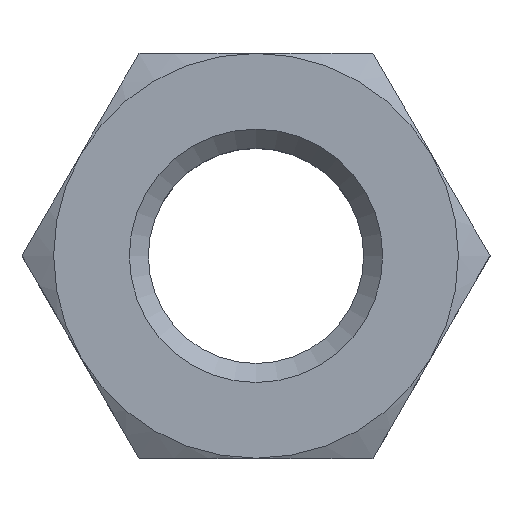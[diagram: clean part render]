
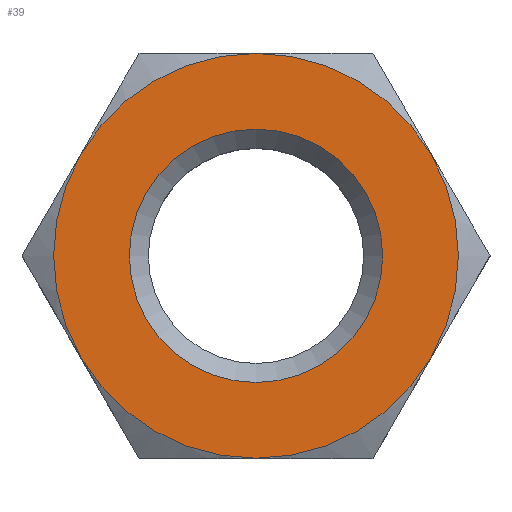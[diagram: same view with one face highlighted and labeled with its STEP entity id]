
A CAD part, top view. The second image highlights one B-rep face of the part: STEP entity #39.
In plain terms, the highlighted planar face has unit normal (0, 0, 1).
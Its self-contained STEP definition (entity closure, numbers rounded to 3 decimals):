
#39 = ADVANCED_FACE( '', ( #84, #85 ), #86, .F. );
#84 = FACE_BOUND( '', #137, .T. );
#85 = FACE_OUTER_BOUND( '', #138, .T. );
#86 = PLANE( '', #139 );
#137 = EDGE_LOOP( '', ( #186 ) );
#138 = EDGE_LOOP( '', ( #187 ) );
#139 = AXIS2_PLACEMENT_3D( '', #188, #189, #190 );
#186 = ORIENTED_EDGE( '', *, *, #281, .T. );
#187 = ORIENTED_EDGE( '', *, *, #283, .F. );
#188 = CARTESIAN_POINT( '', ( -13.856, 8., 8.4 ) );
#189 = DIRECTION( '', ( 0., 0., -1. ) );
#190 = DIRECTION( '', ( -1., 0., 0. ) );
#281 = EDGE_CURVE( '', #319, #319, #320, .T. );
#283 = EDGE_CURVE( '', #322, #322, #323, .T. );
#319 = VERTEX_POINT( '', #374 );
#320 = CIRCLE( '', #375, 5. );
#322 = VERTEX_POINT( '', #377 );
#323 = CIRCLE( '', #378, 7.99 );
#374 = CARTESIAN_POINT( '', ( -5., 0., 8.4 ) );
#375 = AXIS2_PLACEMENT_3D( '', #559, #560, #561 );
#377 = CARTESIAN_POINT( '', ( -7.99, 0., 8.4 ) );
#378 = AXIS2_PLACEMENT_3D( '', #562, #563, #564 );
#559 = CARTESIAN_POINT( '', ( 0., 0., 8.4 ) );
#560 = DIRECTION( '', ( 0., 0., -1. ) );
#561 = DIRECTION( '', ( -1., 0., 0. ) );
#562 = CARTESIAN_POINT( '', ( 0., 0., 8.4 ) );
#563 = DIRECTION( '', ( 0., 0., -1. ) );
#564 = DIRECTION( '', ( -1., 0., 0. ) );
